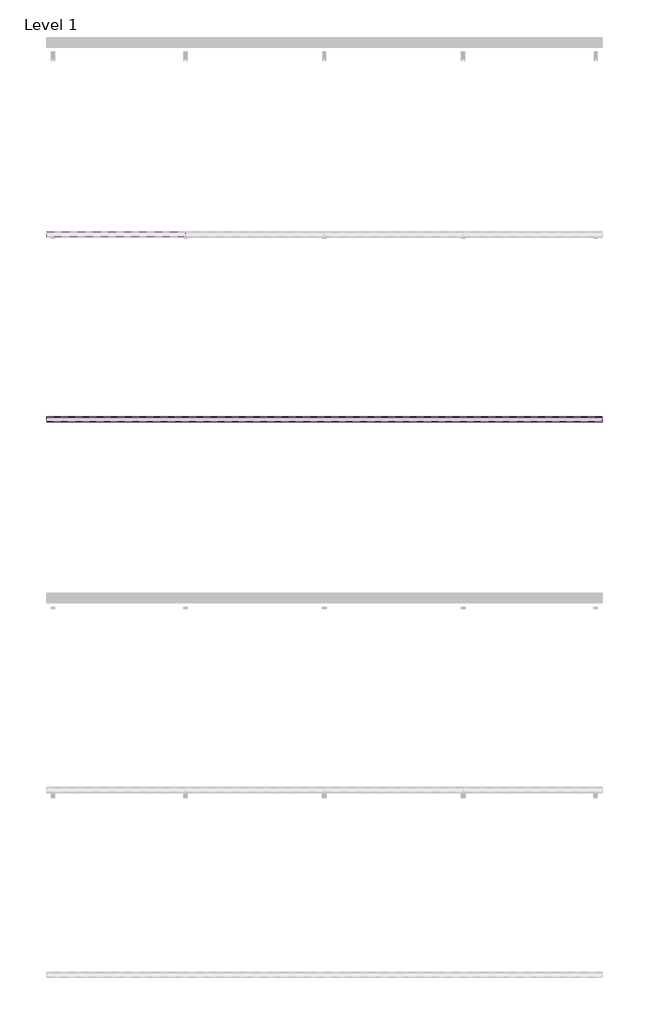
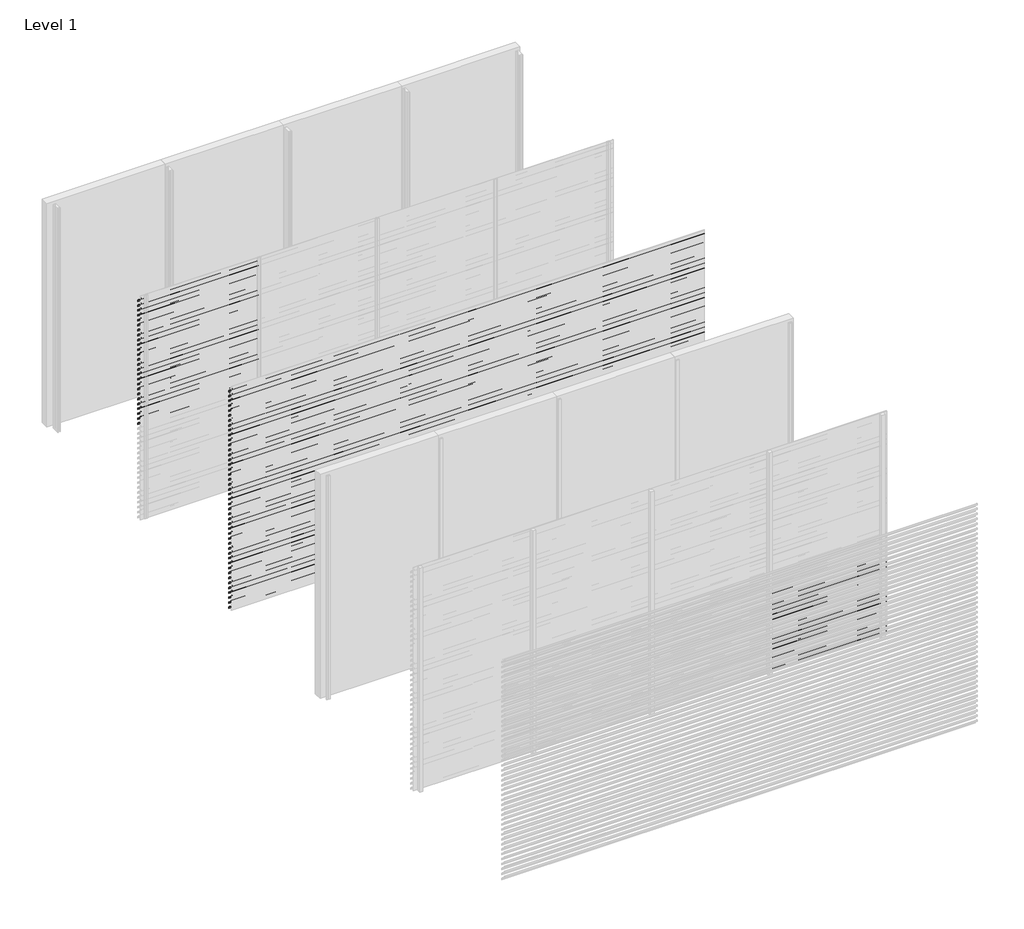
# One storey, part 13 of 25: 87 proxies.
"""IFC4 building model written with IfcOpenShell, lengths in millimetres."""

import ifcopenshell
import ifcopenshell.guid

model = None  # the IFC model being written
_history = None  # IfcOwnerHistory: only IFC2X3 demands one
_inside = {}  # id of a spatial element -> (the spatial element, [elements in it])
_under = {}  # id of a project, library or spatial element -> (it, [spatial elements below it])
_declared = {}  # id of a project -> (the project, [libraries it declares])
_typed = {}  # id of a type object -> (the type object, [elements of that type])
_made_of = {}  # id of a material, layer set ... -> (it, [elements and type objects made of it])


def new_model(schema):
    """Start an empty IFC model of exactly this schema.

    Asked for "IFC4X3", IfcOpenShell would pick the latest addendum, in which some entities
    have other attributes; the version numbers below select the first issue.
    IFC2X3 requires an IfcOwnerHistory on every rooted entity: one is made here for all.
    """
    global model, _history
    if schema == "IFC4X3":
        model = ifcopenshell.file(schema_version=(4, 3, 0, 0))
    else:
        model = ifcopenshell.file(schema=schema)
    _inside.clear()
    _under.clear()
    _declared.clear()
    _typed.clear()
    _made_of.clear()
    _history = None
    if model.schema == "IFC2X3":
        org = make("IfcOrganization", Name="unknown")
        user = make(
            "IfcPersonAndOrganization",
            ThePerson=make("IfcPerson", FamilyName="unknown"),
            TheOrganization=org,
        )
        app = make(
            "IfcApplication",
            ApplicationDeveloper=org,
            Version="unknown",
            ApplicationFullName="unknown",
            ApplicationIdentifier="unknown",
        )
        _history = make(
            "IfcOwnerHistory",
            OwningUser=user,
            OwningApplication=app,
            ChangeAction="ADDED",
            CreationDate=0,
        )
    return model


def make(cls, **values):
    """One entity of the class cls with the attributes given. An attribute that is None is left unset."""
    return model.create_entity(
        cls, **{name: value for name, value in values.items() if value is not None}
    )


def rooted(cls, **values):
    """An entity with a GlobalId (a new one), such as an element, a storey or a relation."""
    return make(cls, GlobalId=ifcopenshell.guid.new(), OwnerHistory=_history, **values)


def si_unit(unit_type, name, prefix=None):
    """IfcSIUnit, for example si_unit("LENGTHUNIT", "METRE", prefix="MILLI")."""
    return make("IfcSIUnit", UnitType=unit_type, Prefix=prefix, Name=name)


def assignment(units):
    """IfcUnitAssignment: the units of a project."""
    return None if units is None else make("IfcUnitAssignment", Units=units)


def point(xyz):
    """IfcCartesianPoint."""
    return None if xyz is None else make("IfcCartesianPoint", Coordinates=xyz)


def direction(xyz):
    """IfcDirection."""
    return None if xyz is None else make("IfcDirection", DirectionRatios=xyz)


def frame(location, z_axis=None, x_axis=None):
    """IfcAxis2Placement3D, a coordinate frame: its origin and axes. An axis left out is left unset."""
    return make(
        "IfcAxis2Placement3D",
        Location=point(location),
        Axis=direction(z_axis),
        RefDirection=direction(x_axis),
    )


def origin():
    """The frame at (0, 0, 0) with its axes left unset."""
    return frame((0.0, 0.0, 0.0))


def place(relative_to, where):
    """IfcLocalPlacement: puts the frame where relative to a parent placement (None: the world)."""
    return make(
        "IfcLocalPlacement", PlacementRelTo=relative_to, RelativePlacement=where
    )


def context(
    kind, dimensions, precision=None, world=None, true_north=None, identifier=None
):
    """IfcGeometricRepresentationContext, for example the 3D "Model" context."""
    return make(
        "IfcGeometricRepresentationContext",
        ContextIdentifier=identifier,
        ContextType=kind,
        CoordinateSpaceDimension=dimensions,
        Precision=precision,
        WorldCoordinateSystem=world,
        TrueNorth=true_north,
    )


def project(units=None, contexts=None):
    """IfcProject with its units and contexts."""
    return rooted(
        "IfcProject",
        Name="project",
        RepresentationContexts=contexts,
        UnitsInContext=assignment(units),
    )


def spatial(cls, under=None, at=None, **own):
    """A site, building, storey or space (cls), placed at a placement, below another one or the project."""
    s = rooted(cls, ObjectPlacement=at, **own)
    if under is not None:
        _under.setdefault(under.id(), (under, []))[1].append(s)
    return s


def polyline(points):
    """IfcPolyline through the points."""
    return make("IfcPolyline", Points=[point(p) for p in points])


def outline(outer, holes=None, kind="AREA"):
    """IfcArbitraryClosedProfileDef: a profile drawn as a closed curve; with holes, ...WithVoids."""
    if holes is None:
        return make("IfcArbitraryClosedProfileDef", ProfileType=kind, OuterCurve=outer)
    return make(
        "IfcArbitraryProfileDefWithVoids",
        ProfileType=kind,
        OuterCurve=outer,
        InnerCurves=holes,
    )


def extrude(swept, where, along, depth):
    """IfcExtrudedAreaSolid: the profile swept, set in the frame where, extruded along a direction by depth."""
    return make(
        "IfcExtrudedAreaSolid",
        SweptArea=swept,
        Position=where,
        ExtrudedDirection=direction(along),
        Depth=depth,
    )


def shape(context_of_items, identifier, shape_type, items):
    """IfcShapeRepresentation: the items that make up one representation, for example the "Body"."""
    return make(
        "IfcShapeRepresentation",
        ContextOfItems=context_of_items,
        RepresentationIdentifier=identifier,
        RepresentationType=shape_type,
        Items=items,
    )


def made_of(thing, what):
    """Note that an element or type object is made of a material, layer set ...; save() writes the relation."""
    if what is not None:
        _made_of.setdefault(what.id(), (what, []))[1].append(thing)
    return thing


def element(
    cls,
    number,
    at=None,
    inside=None,
    cuts=None,
    type_object=None,
    material=None,
    context=None,
    identifier="Body",
    shape_type=None,
    held_by="IfcProductDefinitionShape",
    body=None,
    shapes=None,
    **own,
):
    """One element of the class cls, such as IfcWall. Its Tag is "e" and its number.

    at: its placement. inside: the storey or other place that contains it. cuts: it is an
    opening in that element (IfcRelVoidsElement). A single representation is given by context,
    identifier, shape_type and body (its items); several are given by shapes. held_by: the class
    of the entity that holds the representations. save() writes the other relations.
    """
    e = rooted(cls, Tag="e%d" % number, ObjectPlacement=at, **own)
    if body is not None:
        shapes = [shape(context, identifier, shape_type, body)]
    if shapes is not None:
        e.Representation = make(held_by, Representations=shapes)
    if inside is not None:
        _inside.setdefault(inside.id(), (inside, []))[1].append(e)
    if cuts is not None:
        rooted(
            "IfcRelVoidsElement", RelatingBuildingElement=cuts, RelatedOpeningElement=e
        )
    if type_object is not None:
        _typed.setdefault(type_object.id(), (type_object, []))[1].append(e)
    return made_of(e, material)


def aggregate(whole, parts):
    """IfcRelAggregates: a whole, such as a stair, and the parts it consists of."""
    return rooted("IfcRelAggregates", RelatingObject=whole, RelatedObjects=parts)


def save(model, path):
    """Write the relations noted so far, then the file.

    IfcRelAggregates (storeys below a building ...), IfcRelContainedInSpatialStructure (elements
    in a storey), IfcRelDefinesByType, IfcRelAssociatesMaterial and IfcRelDeclares: one each for
    every whole, place, type object, material and project.
    """
    for whole, parts in _under.values():
        aggregate(whole, parts)
    for where, things in _inside.values():
        rooted(
            "IfcRelContainedInSpatialStructure",
            RelatedElements=things,
            RelatingStructure=where,
        )
    for kind, things in _typed.values():
        rooted("IfcRelDefinesByType", RelatedObjects=things, RelatingType=kind)
    for what, things in _made_of.values():
        rooted("IfcRelAssociatesMaterial", RelatedObjects=things, RelatingMaterial=what)
    for by, libraries in _declared.values():
        rooted("IfcRelDeclares", RelatingContext=by, RelatedDefinitions=libraries)
    model.write(path)


model = new_model("IFC4")

# Units and contexts
model_context = context("Model", 3, world=origin())
ifc_project = project(units=[si_unit("LENGTHUNIT", "METRE", prefix="MILLI")], contexts=[model_context])

# Site, building, storey
site = spatial("IfcSite", under=ifc_project)
building = spatial("IfcBuilding", under=site)
storey = spatial("IfcBuildingStorey", under=building, Name="Level 1", Elevation=0.0)

# Proxies
placement = place(None, origin())
element("IfcBuildingElementProxy", 1, Name="Wall Sweeps", at=placement, inside=storey, context=model_context, shape_type="SweptSolid", body=[
    extrude(outline(polyline([(-23943.0, 2913.5), (-23943.0, 2893.5), (-23944.25, 2894.2216933), (-23944.25, 2912.7872415), (-23998.0, 2950.3158044), (-23998.0, 2970.0), (-23996.75, 2970.0), (-23996.75, 2951.0285629), (-23943.0, 2913.5)])), frame((0.0, 0.0, 0.0), z_axis=(1.0, 0.0, 0.0), x_axis=(0.0, 1.0, 0.0)), (0.0, 0.0, 1.0), 1500.0),
])
element("IfcBuildingElementProxy", 2, Name="Wall Sweeps", at=placement, inside=storey, context=model_context, shape_type="SweptSolid", body=[
    extrude(outline(polyline([(-23943.0, 2847.5), (-23943.0, 2827.5), (-23944.25, 2828.2216933), (-23944.25, 2846.7872415), (-23998.0, 2884.3158044), (-23998.0, 2904.0), (-23996.75, 2904.0), (-23996.75, 2885.0285629), (-23943.0, 2847.5)])), frame((0.0, 0.0, 0.0), z_axis=(1.0, 0.0, 0.0), x_axis=(0.0, 1.0, 0.0)), (0.0, 0.0, 1.0), 1500.0),
])
element("IfcBuildingElementProxy", 3, Name="Wall Sweeps", at=placement, inside=storey, context=model_context, shape_type="SweptSolid", body=[
    extrude(outline(polyline([(-23943.0, 2781.5), (-23943.0, 2761.5), (-23944.25, 2762.2216933), (-23944.25, 2780.7872415), (-23998.0, 2818.3158044), (-23998.0, 2838.0), (-23996.75, 2838.0), (-23996.75, 2819.0285629), (-23943.0, 2781.5)])), frame((0.0, 0.0, 0.0), z_axis=(1.0, 0.0, 0.0), x_axis=(0.0, 1.0, 0.0)), (0.0, 0.0, 1.0), 1500.0),
])
element("IfcBuildingElementProxy", 4, Name="Wall Sweeps", at=placement, inside=storey, context=model_context, shape_type="SweptSolid", body=[
    extrude(outline(polyline([(-23943.0, 2715.5), (-23943.0, 2695.5), (-23944.25, 2696.2216933), (-23944.25, 2714.7872415), (-23998.0, 2752.3158044), (-23998.0, 2772.0), (-23996.75, 2772.0), (-23996.75, 2753.0285629), (-23943.0, 2715.5)])), frame((0.0, 0.0, 0.0), z_axis=(1.0, 0.0, 0.0), x_axis=(0.0, 1.0, 0.0)), (0.0, 0.0, 1.0), 1500.0),
])
element("IfcBuildingElementProxy", 5, Name="Wall Sweeps", at=placement, inside=storey, context=model_context, shape_type="SweptSolid", body=[
    extrude(outline(polyline([(-23943.0, 2649.5), (-23943.0, 2629.5), (-23944.25, 2630.2216933), (-23944.25, 2648.7872415), (-23998.0, 2686.3158044), (-23998.0, 2706.0), (-23996.75, 2706.0), (-23996.75, 2687.0285629), (-23943.0, 2649.5)])), frame((0.0, 0.0, 0.0), z_axis=(1.0, 0.0, 0.0), x_axis=(0.0, 1.0, 0.0)), (0.0, 0.0, 1.0), 1500.0),
])
element("IfcBuildingElementProxy", 6, Name="Wall Sweeps", at=placement, inside=storey, context=model_context, shape_type="SweptSolid", body=[
    extrude(outline(polyline([(-23943.0, 2583.5), (-23943.0, 2563.5), (-23944.25, 2564.2216933), (-23944.25, 2582.7872415), (-23998.0, 2620.3158044), (-23998.0, 2640.0), (-23996.75, 2640.0), (-23996.75, 2621.0285629), (-23943.0, 2583.5)])), frame((0.0, 0.0, 0.0), z_axis=(1.0, 0.0, 0.0), x_axis=(0.0, 1.0, 0.0)), (0.0, 0.0, 1.0), 1500.0),
])
element("IfcBuildingElementProxy", 7, Name="Wall Sweeps", at=placement, inside=storey, context=model_context, shape_type="SweptSolid", body=[
    extrude(outline(polyline([(-23943.0, 2517.5), (-23943.0, 2497.5), (-23944.25, 2498.2216933), (-23944.25, 2516.7872415), (-23998.0, 2554.3158044), (-23998.0, 2574.0), (-23996.75, 2574.0), (-23996.75, 2555.0285629), (-23943.0, 2517.5)])), frame((0.0, 0.0, 0.0), z_axis=(1.0, 0.0, 0.0), x_axis=(0.0, 1.0, 0.0)), (0.0, 0.0, 1.0), 1500.0),
])
element("IfcBuildingElementProxy", 8, Name="Wall Sweeps", at=placement, inside=storey, context=model_context, shape_type="SweptSolid", body=[
    extrude(outline(polyline([(-23943.0, 2451.5), (-23943.0, 2431.5), (-23944.25, 2432.2216933), (-23944.25, 2450.7872415), (-23998.0, 2488.3158044), (-23998.0, 2508.0), (-23996.75, 2508.0), (-23996.75, 2489.0285629), (-23943.0, 2451.5)])), frame((0.0, 0.0, 0.0), z_axis=(1.0, 0.0, 0.0), x_axis=(0.0, 1.0, 0.0)), (0.0, 0.0, 1.0), 1500.0),
])
element("IfcBuildingElementProxy", 9, Name="Wall Sweeps", at=placement, inside=storey, context=model_context, shape_type="SweptSolid", body=[
    extrude(outline(polyline([(-23943.0, 2385.5), (-23943.0, 2365.5), (-23944.25, 2366.2216933), (-23944.25, 2384.7872415), (-23998.0, 2422.3158044), (-23998.0, 2442.0), (-23996.75, 2442.0), (-23996.75, 2423.0285629), (-23943.0, 2385.5)])), frame((0.0, 0.0, 0.0), z_axis=(1.0, 0.0, 0.0), x_axis=(0.0, 1.0, 0.0)), (0.0, 0.0, 1.0), 1500.0),
])
element("IfcBuildingElementProxy", 10, Name="Wall Sweeps", at=placement, inside=storey, context=model_context, shape_type="SweptSolid", body=[
    extrude(outline(polyline([(-23943.0, 2319.5), (-23943.0, 2299.5), (-23944.25, 2300.2216933), (-23944.25, 2318.7872415), (-23998.0, 2356.3158044), (-23998.0, 2376.0), (-23996.75, 2376.0), (-23996.75, 2357.0285629), (-23943.0, 2319.5)])), frame((0.0, 0.0, 0.0), z_axis=(1.0, 0.0, 0.0), x_axis=(0.0, 1.0, 0.0)), (0.0, 0.0, 1.0), 1500.0),
])
element("IfcBuildingElementProxy", 11, Name="Wall Sweeps", at=placement, inside=storey, context=model_context, shape_type="SweptSolid", body=[
    extrude(outline(polyline([(-23943.0, 2253.5), (-23943.0, 2233.5), (-23944.25, 2234.2216933), (-23944.25, 2252.7872415), (-23998.0, 2290.3158044), (-23998.0, 2310.0), (-23996.75, 2310.0), (-23996.75, 2291.0285629), (-23943.0, 2253.5)])), frame((0.0, 0.0, 0.0), z_axis=(1.0, 0.0, 0.0), x_axis=(0.0, 1.0, 0.0)), (0.0, 0.0, 1.0), 1500.0),
])
element("IfcBuildingElementProxy", 12, Name="Wall Sweeps", at=placement, inside=storey, context=model_context, shape_type="SweptSolid", body=[
    extrude(outline(polyline([(-23943.0, 2187.5), (-23943.0, 2167.5), (-23944.25, 2168.2216933), (-23944.25, 2186.7872415), (-23998.0, 2224.3158044), (-23998.0, 2244.0), (-23996.75, 2244.0), (-23996.75, 2225.0285629), (-23943.0, 2187.5)])), frame((0.0, 0.0, 0.0), z_axis=(1.0, 0.0, 0.0), x_axis=(0.0, 1.0, 0.0)), (0.0, 0.0, 1.0), 1500.0),
])
element("IfcBuildingElementProxy", 13, Name="Wall Sweeps", at=placement, inside=storey, context=model_context, shape_type="SweptSolid", body=[
    extrude(outline(polyline([(-23943.0, 2121.5), (-23943.0, 2101.5), (-23944.25, 2102.2216933), (-23944.25, 2120.7872415), (-23998.0, 2158.3158044), (-23998.0, 2178.0), (-23996.75, 2178.0), (-23996.75, 2159.0285629), (-23943.0, 2121.5)])), frame((0.0, 0.0, 0.0), z_axis=(1.0, 0.0, 0.0), x_axis=(0.0, 1.0, 0.0)), (0.0, 0.0, 1.0), 1500.0),
])
element("IfcBuildingElementProxy", 14, Name="Wall Sweeps", at=placement, inside=storey, context=model_context, shape_type="SweptSolid", body=[
    extrude(outline(polyline([(-23943.0, 2055.5), (-23943.0, 2035.5), (-23944.25, 2036.2216933), (-23944.25, 2054.7872415), (-23998.0, 2092.3158044), (-23998.0, 2112.0), (-23996.75, 2112.0), (-23996.75, 2093.0285629), (-23943.0, 2055.5)])), frame((0.0, 0.0, 0.0), z_axis=(1.0, 0.0, 0.0), x_axis=(0.0, 1.0, 0.0)), (0.0, 0.0, 1.0), 1500.0),
])
element("IfcBuildingElementProxy", 15, Name="Wall Sweeps", at=placement, inside=storey, context=model_context, shape_type="SweptSolid", body=[
    extrude(outline(polyline([(-23943.0, 1989.5), (-23943.0, 1969.5), (-23944.25, 1970.2216933), (-23944.25, 1988.7872415), (-23998.0, 2026.3158044), (-23998.0, 2046.0), (-23996.75, 2046.0), (-23996.75, 2027.0285629), (-23943.0, 1989.5)])), frame((0.0, 0.0, 0.0), z_axis=(1.0, 0.0, 0.0), x_axis=(0.0, 1.0, 0.0)), (0.0, 0.0, 1.0), 1500.0),
])
element("IfcBuildingElementProxy", 16, Name="Wall Sweeps", at=placement, inside=storey, context=model_context, shape_type="SweptSolid", body=[
    extrude(outline(polyline([(-23943.0, 1923.5), (-23943.0, 1903.5), (-23944.25, 1904.2216933), (-23944.25, 1922.7872415), (-23998.0, 1960.3158044), (-23998.0, 1980.0), (-23996.75, 1980.0), (-23996.75, 1961.0285629), (-23943.0, 1923.5)])), frame((0.0, 0.0, 0.0), z_axis=(1.0, 0.0, 0.0), x_axis=(0.0, 1.0, 0.0)), (0.0, 0.0, 1.0), 1500.0),
])
element("IfcBuildingElementProxy", 17, Name="Wall Sweeps", at=placement, inside=storey, context=model_context, shape_type="SweptSolid", body=[
    extrude(outline(polyline([(-23943.0, 1857.5), (-23943.0, 1837.5), (-23944.25, 1838.2216933), (-23944.25, 1856.7872415), (-23998.0, 1894.3158044), (-23998.0, 1914.0), (-23996.75, 1914.0), (-23996.75, 1895.0285629), (-23943.0, 1857.5)])), frame((0.0, 0.0, 0.0), z_axis=(1.0, 0.0, 0.0), x_axis=(0.0, 1.0, 0.0)), (0.0, 0.0, 1.0), 1500.0),
])
element("IfcBuildingElementProxy", 18, Name="Wall Sweeps", at=placement, inside=storey, context=model_context, shape_type="SweptSolid", body=[
    extrude(outline(polyline([(-23943.0, 1791.5), (-23943.0, 1771.5), (-23944.25, 1772.2216933), (-23944.25, 1790.7872415), (-23998.0, 1828.3158044), (-23998.0, 1848.0), (-23996.75, 1848.0), (-23996.75, 1829.0285629), (-23943.0, 1791.5)])), frame((0.0, 0.0, 0.0), z_axis=(1.0, 0.0, 0.0), x_axis=(0.0, 1.0, 0.0)), (0.0, 0.0, 1.0), 1500.0),
])
element("IfcBuildingElementProxy", 19, Name="Wall Sweeps", at=placement, inside=storey, context=model_context, shape_type="SweptSolid", body=[
    extrude(outline(polyline([(-23943.0, 1725.5), (-23943.0, 1705.5), (-23944.25, 1706.2216933), (-23944.25, 1724.7872415), (-23998.0, 1762.3158044), (-23998.0, 1782.0), (-23996.75, 1782.0), (-23996.75, 1763.0285629), (-23943.0, 1725.5)])), frame((0.0, 0.0, 0.0), z_axis=(1.0, 0.0, 0.0), x_axis=(0.0, 1.0, 0.0)), (0.0, 0.0, 1.0), 1500.0),
])
element("IfcBuildingElementProxy", 20, Name="Wall Sweeps", at=placement, inside=storey, context=model_context, shape_type="SweptSolid", body=[
    extrude(outline(polyline([(-23943.0, 1659.5), (-23943.0, 1639.5), (-23944.25, 1640.2216933), (-23944.25, 1658.7872415), (-23998.0, 1696.3158044), (-23998.0, 1716.0), (-23996.75, 1716.0), (-23996.75, 1697.0285629), (-23943.0, 1659.5)])), frame((0.0, 0.0, 0.0), z_axis=(1.0, 0.0, 0.0), x_axis=(0.0, 1.0, 0.0)), (0.0, 0.0, 1.0), 1500.0),
])
element("IfcBuildingElementProxy", 21, Name="Wall Sweeps", at=placement, inside=storey, context=model_context, shape_type="SweptSolid", body=[
    extrude(outline(polyline([(-23943.0, 1593.5), (-23943.0, 1573.5), (-23944.25, 1574.2216933), (-23944.25, 1592.7872415), (-23998.0, 1630.3158044), (-23998.0, 1650.0), (-23996.75, 1650.0), (-23996.75, 1631.0285629), (-23943.0, 1593.5)])), frame((0.0, 0.0, 0.0), z_axis=(1.0, 0.0, 0.0), x_axis=(0.0, 1.0, 0.0)), (0.0, 0.0, 1.0), 1500.0),
])
element("IfcBuildingElementProxy", 22, Name="Wall Sweeps", at=placement, inside=storey, context=model_context, shape_type="SweptSolid", body=[
    extrude(outline(polyline([(-23943.0, 1527.5), (-23943.0, 1507.5), (-23944.25, 1508.2216933), (-23944.25, 1526.7872415), (-23998.0, 1564.3158044), (-23998.0, 1584.0), (-23996.75, 1584.0), (-23996.75, 1565.0285629), (-23943.0, 1527.5)])), frame((0.0, 0.0, 0.0), z_axis=(1.0, 0.0, 0.0), x_axis=(0.0, 1.0, 0.0)), (0.0, 0.0, 1.0), 1500.0),
])
element("IfcBuildingElementProxy", 23, Name="Wall Sweeps", at=placement, inside=storey, context=model_context, shape_type="SweptSolid", body=[
    extrude(outline(polyline([(-23943.0, 1461.5), (-23943.0, 1441.5), (-23944.25, 1442.2216933), (-23944.25, 1460.7872415), (-23998.0, 1498.3158044), (-23998.0, 1518.0), (-23996.75, 1518.0), (-23996.75, 1499.0285629), (-23943.0, 1461.5)])), frame((0.0, 0.0, 0.0), z_axis=(1.0, 0.0, 0.0), x_axis=(0.0, 1.0, 0.0)), (0.0, 0.0, 1.0), 1500.0),
])
element("IfcBuildingElementProxy", 24, Name="Wall Sweeps", at=placement, inside=storey, context=model_context, shape_type="SweptSolid", body=[
    extrude(outline(polyline([(-23943.0, 1395.5), (-23943.0, 1375.5), (-23944.25, 1376.2216933), (-23944.25, 1394.7872415), (-23998.0, 1432.3158044), (-23998.0, 1452.0), (-23996.75, 1452.0), (-23996.75, 1433.0285629), (-23943.0, 1395.5)])), frame((0.0, 0.0, 0.0), z_axis=(1.0, 0.0, 0.0), x_axis=(0.0, 1.0, 0.0)), (0.0, 0.0, 1.0), 1500.0),
])
element("IfcBuildingElementProxy", 25, Name="Wall Sweeps", at=placement, inside=storey, context=model_context, shape_type="SweptSolid", body=[
    extrude(outline(polyline([(-23943.0, 1329.5), (-23943.0, 1309.5), (-23944.25, 1310.2216933), (-23944.25, 1328.7872415), (-23998.0, 1366.3158044), (-23998.0, 1386.0), (-23996.75, 1386.0), (-23996.75, 1367.0285629), (-23943.0, 1329.5)])), frame((0.0, 0.0, 0.0), z_axis=(1.0, 0.0, 0.0), x_axis=(0.0, 1.0, 0.0)), (0.0, 0.0, 1.0), 1500.0),
])
element("IfcBuildingElementProxy", 26, Name="Wall Sweeps", at=placement, inside=storey, context=model_context, shape_type="SweptSolid", body=[
    extrude(outline(polyline([(-23943.0, 1263.5), (-23943.0, 1243.5), (-23944.25, 1244.2216933), (-23944.25, 1262.7872415), (-23998.0, 1300.3158044), (-23998.0, 1320.0), (-23996.75, 1320.0), (-23996.75, 1301.0285629), (-23943.0, 1263.5)])), frame((0.0, 0.0, 0.0), z_axis=(1.0, 0.0, 0.0), x_axis=(0.0, 1.0, 0.0)), (0.0, 0.0, 1.0), 1500.0),
])
element("IfcBuildingElementProxy", 27, Name="Wall Sweeps", at=placement, inside=storey, context=model_context, shape_type="SweptSolid", body=[
    extrude(outline(polyline([(-25943.0, 2913.5), (-25943.0, 2893.5), (-25944.25, 2894.2216933), (-25944.25, 2912.7872415), (-25998.0, 2950.3158044), (-25998.0, 2970.0), (-25996.75, 2970.0), (-25996.75, 2951.0285629), (-25943.0, 2913.5)])), frame((0.0, 0.0, 0.0), z_axis=(1.0, 0.0, 0.0), x_axis=(0.0, 1.0, 0.0)), (0.0, 0.0, 1.0), 6000.0),
])
element("IfcBuildingElementProxy", 28, Name="Wall Sweeps", at=placement, inside=storey, context=model_context, shape_type="SweptSolid", body=[
    extrude(outline(polyline([(-25943.0, 2847.5), (-25943.0, 2827.5), (-25944.25, 2828.2216933), (-25944.25, 2846.7872415), (-25998.0, 2884.3158044), (-25998.0, 2904.0), (-25996.75, 2904.0), (-25996.75, 2885.0285629), (-25943.0, 2847.5)])), frame((0.0, 0.0, 0.0), z_axis=(1.0, 0.0, 0.0), x_axis=(0.0, 1.0, 0.0)), (0.0, 0.0, 1.0), 6000.0),
])
element("IfcBuildingElementProxy", 29, Name="Wall Sweeps", at=placement, inside=storey, context=model_context, shape_type="SweptSolid", body=[
    extrude(outline(polyline([(-25943.0, 2781.5), (-25943.0, 2761.5), (-25944.25, 2762.2216933), (-25944.25, 2780.7872415), (-25998.0, 2818.3158044), (-25998.0, 2838.0), (-25996.75, 2838.0), (-25996.75, 2819.0285629), (-25943.0, 2781.5)])), frame((0.0, 0.0, 0.0), z_axis=(1.0, 0.0, 0.0), x_axis=(0.0, 1.0, 0.0)), (0.0, 0.0, 1.0), 6000.0),
])
element("IfcBuildingElementProxy", 30, Name="Wall Sweeps", at=placement, inside=storey, context=model_context, shape_type="SweptSolid", body=[
    extrude(outline(polyline([(-25943.0, 2715.5), (-25943.0, 2695.5), (-25944.25, 2696.2216933), (-25944.25, 2714.7872415), (-25998.0, 2752.3158044), (-25998.0, 2772.0), (-25996.75, 2772.0), (-25996.75, 2753.0285629), (-25943.0, 2715.5)])), frame((0.0, 0.0, 0.0), z_axis=(1.0, 0.0, 0.0), x_axis=(0.0, 1.0, 0.0)), (0.0, 0.0, 1.0), 6000.0),
])
element("IfcBuildingElementProxy", 31, Name="Wall Sweeps", at=placement, inside=storey, context=model_context, shape_type="SweptSolid", body=[
    extrude(outline(polyline([(-25943.0, 2649.5), (-25943.0, 2629.5), (-25944.25, 2630.2216933), (-25944.25, 2648.7872415), (-25998.0, 2686.3158044), (-25998.0, 2706.0), (-25996.75, 2706.0), (-25996.75, 2687.0285629), (-25943.0, 2649.5)])), frame((0.0, 0.0, 0.0), z_axis=(1.0, 0.0, 0.0), x_axis=(0.0, 1.0, 0.0)), (0.0, 0.0, 1.0), 6000.0),
])
element("IfcBuildingElementProxy", 32, Name="Wall Sweeps", at=placement, inside=storey, context=model_context, shape_type="SweptSolid", body=[
    extrude(outline(polyline([(-25943.0, 2583.5), (-25943.0, 2563.5), (-25944.25, 2564.2216933), (-25944.25, 2582.7872415), (-25998.0, 2620.3158044), (-25998.0, 2640.0), (-25996.75, 2640.0), (-25996.75, 2621.0285629), (-25943.0, 2583.5)])), frame((0.0, 0.0, 0.0), z_axis=(1.0, 0.0, 0.0), x_axis=(0.0, 1.0, 0.0)), (0.0, 0.0, 1.0), 6000.0),
])
element("IfcBuildingElementProxy", 33, Name="Wall Sweeps", at=placement, inside=storey, context=model_context, shape_type="SweptSolid", body=[
    extrude(outline(polyline([(-25943.0, 2517.5), (-25943.0, 2497.5), (-25944.25, 2498.2216933), (-25944.25, 2516.7872415), (-25998.0, 2554.3158044), (-25998.0, 2574.0), (-25996.75, 2574.0), (-25996.75, 2555.0285629), (-25943.0, 2517.5)])), frame((0.0, 0.0, 0.0), z_axis=(1.0, 0.0, 0.0), x_axis=(0.0, 1.0, 0.0)), (0.0, 0.0, 1.0), 6000.0),
])
element("IfcBuildingElementProxy", 34, Name="Wall Sweeps", at=placement, inside=storey, context=model_context, shape_type="SweptSolid", body=[
    extrude(outline(polyline([(-25943.0, 2451.5), (-25943.0, 2431.5), (-25944.25, 2432.2216933), (-25944.25, 2450.7872415), (-25998.0, 2488.3158044), (-25998.0, 2508.0), (-25996.75, 2508.0), (-25996.75, 2489.0285629), (-25943.0, 2451.5)])), frame((0.0, 0.0, 0.0), z_axis=(1.0, 0.0, 0.0), x_axis=(0.0, 1.0, 0.0)), (0.0, 0.0, 1.0), 6000.0),
])
element("IfcBuildingElementProxy", 35, Name="Wall Sweeps", at=placement, inside=storey, context=model_context, shape_type="SweptSolid", body=[
    extrude(outline(polyline([(-25943.0, 2385.5), (-25943.0, 2365.5), (-25944.25, 2366.2216933), (-25944.25, 2384.7872415), (-25998.0, 2422.3158044), (-25998.0, 2442.0), (-25996.75, 2442.0), (-25996.75, 2423.0285629), (-25943.0, 2385.5)])), frame((0.0, 0.0, 0.0), z_axis=(1.0, 0.0, 0.0), x_axis=(0.0, 1.0, 0.0)), (0.0, 0.0, 1.0), 6000.0),
])
element("IfcBuildingElementProxy", 36, Name="Wall Sweeps", at=placement, inside=storey, context=model_context, shape_type="SweptSolid", body=[
    extrude(outline(polyline([(-25943.0, 2319.5), (-25943.0, 2299.5), (-25944.25, 2300.2216933), (-25944.25, 2318.7872415), (-25998.0, 2356.3158044), (-25998.0, 2376.0), (-25996.75, 2376.0), (-25996.75, 2357.0285629), (-25943.0, 2319.5)])), frame((0.0, 0.0, 0.0), z_axis=(1.0, 0.0, 0.0), x_axis=(0.0, 1.0, 0.0)), (0.0, 0.0, 1.0), 6000.0),
])
element("IfcBuildingElementProxy", 37, Name="Wall Sweeps", at=placement, inside=storey, context=model_context, shape_type="SweptSolid", body=[
    extrude(outline(polyline([(-25943.0, 2253.5), (-25943.0, 2233.5), (-25944.25, 2234.2216933), (-25944.25, 2252.7872415), (-25998.0, 2290.3158044), (-25998.0, 2310.0), (-25996.75, 2310.0), (-25996.75, 2291.0285629), (-25943.0, 2253.5)])), frame((0.0, 0.0, 0.0), z_axis=(1.0, 0.0, 0.0), x_axis=(0.0, 1.0, 0.0)), (0.0, 0.0, 1.0), 6000.0),
])
element("IfcBuildingElementProxy", 38, Name="Wall Sweeps", at=placement, inside=storey, context=model_context, shape_type="SweptSolid", body=[
    extrude(outline(polyline([(-25943.0, 2187.5), (-25943.0, 2167.5), (-25944.25, 2168.2216933), (-25944.25, 2186.7872415), (-25998.0, 2224.3158044), (-25998.0, 2244.0), (-25996.75, 2244.0), (-25996.75, 2225.0285629), (-25943.0, 2187.5)])), frame((0.0, 0.0, 0.0), z_axis=(1.0, 0.0, 0.0), x_axis=(0.0, 1.0, 0.0)), (0.0, 0.0, 1.0), 6000.0),
])
element("IfcBuildingElementProxy", 39, Name="Wall Sweeps", at=placement, inside=storey, context=model_context, shape_type="SweptSolid", body=[
    extrude(outline(polyline([(-25943.0, 2121.5), (-25943.0, 2101.5), (-25944.25, 2102.2216933), (-25944.25, 2120.7872415), (-25998.0, 2158.3158044), (-25998.0, 2178.0), (-25996.75, 2178.0), (-25996.75, 2159.0285629), (-25943.0, 2121.5)])), frame((0.0, 0.0, 0.0), z_axis=(1.0, 0.0, 0.0), x_axis=(0.0, 1.0, 0.0)), (0.0, 0.0, 1.0), 6000.0),
])
element("IfcBuildingElementProxy", 40, Name="Wall Sweeps", at=placement, inside=storey, context=model_context, shape_type="SweptSolid", body=[
    extrude(outline(polyline([(-25943.0, 2055.5), (-25943.0, 2035.5), (-25944.25, 2036.2216933), (-25944.25, 2054.7872415), (-25998.0, 2092.3158044), (-25998.0, 2112.0), (-25996.75, 2112.0), (-25996.75, 2093.0285629), (-25943.0, 2055.5)])), frame((0.0, 0.0, 0.0), z_axis=(1.0, 0.0, 0.0), x_axis=(0.0, 1.0, 0.0)), (0.0, 0.0, 1.0), 6000.0),
])
element("IfcBuildingElementProxy", 41, Name="Wall Sweeps", at=placement, inside=storey, context=model_context, shape_type="SweptSolid", body=[
    extrude(outline(polyline([(-25943.0, 1989.5), (-25943.0, 1969.5), (-25944.25, 1970.2216933), (-25944.25, 1988.7872415), (-25998.0, 2026.3158044), (-25998.0, 2046.0), (-25996.75, 2046.0), (-25996.75, 2027.0285629), (-25943.0, 1989.5)])), frame((0.0, 0.0, 0.0), z_axis=(1.0, 0.0, 0.0), x_axis=(0.0, 1.0, 0.0)), (0.0, 0.0, 1.0), 6000.0),
])
element("IfcBuildingElementProxy", 42, Name="Wall Sweeps", at=placement, inside=storey, context=model_context, shape_type="SweptSolid", body=[
    extrude(outline(polyline([(-25943.0, 1923.5), (-25943.0, 1903.5), (-25944.25, 1904.2216933), (-25944.25, 1922.7872415), (-25998.0, 1960.3158044), (-25998.0, 1980.0), (-25996.75, 1980.0), (-25996.75, 1961.0285629), (-25943.0, 1923.5)])), frame((0.0, 0.0, 0.0), z_axis=(1.0, 0.0, 0.0), x_axis=(0.0, 1.0, 0.0)), (0.0, 0.0, 1.0), 6000.0),
])
element("IfcBuildingElementProxy", 43, Name="Wall Sweeps", at=placement, inside=storey, context=model_context, shape_type="SweptSolid", body=[
    extrude(outline(polyline([(-25943.0, 1857.5), (-25943.0, 1837.5), (-25944.25, 1838.2216933), (-25944.25, 1856.7872415), (-25998.0, 1894.3158044), (-25998.0, 1914.0), (-25996.75, 1914.0), (-25996.75, 1895.0285629), (-25943.0, 1857.5)])), frame((0.0, 0.0, 0.0), z_axis=(1.0, 0.0, 0.0), x_axis=(0.0, 1.0, 0.0)), (0.0, 0.0, 1.0), 6000.0),
])
element("IfcBuildingElementProxy", 44, Name="Wall Sweeps", at=placement, inside=storey, context=model_context, shape_type="SweptSolid", body=[
    extrude(outline(polyline([(-25943.0, 1791.5), (-25943.0, 1771.5), (-25944.25, 1772.2216933), (-25944.25, 1790.7872415), (-25998.0, 1828.3158044), (-25998.0, 1848.0), (-25996.75, 1848.0), (-25996.75, 1829.0285629), (-25943.0, 1791.5)])), frame((0.0, 0.0, 0.0), z_axis=(1.0, 0.0, 0.0), x_axis=(0.0, 1.0, 0.0)), (0.0, 0.0, 1.0), 6000.0),
])
element("IfcBuildingElementProxy", 45, Name="Wall Sweeps", at=placement, inside=storey, context=model_context, shape_type="SweptSolid", body=[
    extrude(outline(polyline([(-25943.0, 1725.5), (-25943.0, 1705.5), (-25944.25, 1706.2216933), (-25944.25, 1724.7872415), (-25998.0, 1762.3158044), (-25998.0, 1782.0), (-25996.75, 1782.0), (-25996.75, 1763.0285629), (-25943.0, 1725.5)])), frame((0.0, 0.0, 0.0), z_axis=(1.0, 0.0, 0.0), x_axis=(0.0, 1.0, 0.0)), (0.0, 0.0, 1.0), 6000.0),
])
element("IfcBuildingElementProxy", 46, Name="Wall Sweeps", at=placement, inside=storey, context=model_context, shape_type="SweptSolid", body=[
    extrude(outline(polyline([(-25943.0, 1659.5), (-25943.0, 1639.5), (-25944.25, 1640.2216933), (-25944.25, 1658.7872415), (-25998.0, 1696.3158044), (-25998.0, 1716.0), (-25996.75, 1716.0), (-25996.75, 1697.0285629), (-25943.0, 1659.5)])), frame((0.0, 0.0, 0.0), z_axis=(1.0, 0.0, 0.0), x_axis=(0.0, 1.0, 0.0)), (0.0, 0.0, 1.0), 6000.0),
])
element("IfcBuildingElementProxy", 47, Name="Wall Sweeps", at=placement, inside=storey, context=model_context, shape_type="SweptSolid", body=[
    extrude(outline(polyline([(-25943.0, 1593.5), (-25943.0, 1573.5), (-25944.25, 1574.2216933), (-25944.25, 1592.7872415), (-25998.0, 1630.3158044), (-25998.0, 1650.0), (-25996.75, 1650.0), (-25996.75, 1631.0285629), (-25943.0, 1593.5)])), frame((0.0, 0.0, 0.0), z_axis=(1.0, 0.0, 0.0), x_axis=(0.0, 1.0, 0.0)), (0.0, 0.0, 1.0), 6000.0),
])
element("IfcBuildingElementProxy", 48, Name="Wall Sweeps", at=placement, inside=storey, context=model_context, shape_type="SweptSolid", body=[
    extrude(outline(polyline([(-25943.0, 1527.5), (-25943.0, 1507.5), (-25944.25, 1508.2216933), (-25944.25, 1526.7872415), (-25998.0, 1564.3158044), (-25998.0, 1584.0), (-25996.75, 1584.0), (-25996.75, 1565.0285629), (-25943.0, 1527.5)])), frame((0.0, 0.0, 0.0), z_axis=(1.0, 0.0, 0.0), x_axis=(0.0, 1.0, 0.0)), (0.0, 0.0, 1.0), 6000.0),
])
element("IfcBuildingElementProxy", 49, Name="Wall Sweeps", at=placement, inside=storey, context=model_context, shape_type="SweptSolid", body=[
    extrude(outline(polyline([(-25943.0, 1461.5), (-25943.0, 1441.5), (-25944.25, 1442.2216933), (-25944.25, 1460.7872415), (-25998.0, 1498.3158044), (-25998.0, 1518.0), (-25996.75, 1518.0), (-25996.75, 1499.0285629), (-25943.0, 1461.5)])), frame((0.0, 0.0, 0.0), z_axis=(1.0, 0.0, 0.0), x_axis=(0.0, 1.0, 0.0)), (0.0, 0.0, 1.0), 6000.0),
])
element("IfcBuildingElementProxy", 50, Name="Wall Sweeps", at=placement, inside=storey, context=model_context, shape_type="SweptSolid", body=[
    extrude(outline(polyline([(-25943.0, 1395.5), (-25943.0, 1375.5), (-25944.25, 1376.2216933), (-25944.25, 1394.7872415), (-25998.0, 1432.3158044), (-25998.0, 1452.0), (-25996.75, 1452.0), (-25996.75, 1433.0285629), (-25943.0, 1395.5)])), frame((0.0, 0.0, 0.0), z_axis=(1.0, 0.0, 0.0), x_axis=(0.0, 1.0, 0.0)), (0.0, 0.0, 1.0), 6000.0),
])
element("IfcBuildingElementProxy", 51, Name="Wall Sweeps", at=placement, inside=storey, context=model_context, shape_type="SweptSolid", body=[
    extrude(outline(polyline([(-25943.0, 1329.5), (-25943.0, 1309.5), (-25944.25, 1310.2216933), (-25944.25, 1328.7872415), (-25998.0, 1366.3158044), (-25998.0, 1386.0), (-25996.75, 1386.0), (-25996.75, 1367.0285629), (-25943.0, 1329.5)])), frame((0.0, 0.0, 0.0), z_axis=(1.0, 0.0, 0.0), x_axis=(0.0, 1.0, 0.0)), (0.0, 0.0, 1.0), 6000.0),
])
element("IfcBuildingElementProxy", 52, Name="Wall Sweeps", at=placement, inside=storey, context=model_context, shape_type="SweptSolid", body=[
    extrude(outline(polyline([(-25943.0, 1263.5), (-25943.0, 1243.5), (-25944.25, 1244.2216933), (-25944.25, 1262.7872415), (-25998.0, 1300.3158044), (-25998.0, 1320.0), (-25996.75, 1320.0), (-25996.75, 1301.0285629), (-25943.0, 1263.5)])), frame((0.0, 0.0, 0.0), z_axis=(1.0, 0.0, 0.0), x_axis=(0.0, 1.0, 0.0)), (0.0, 0.0, 1.0), 6000.0),
])
element("IfcBuildingElementProxy", 53, Name="Wall Sweeps", at=placement, inside=storey, context=model_context, shape_type="SweptSolid", body=[
    extrude(outline(polyline([(-25943.0, 1197.5), (-25943.0, 1177.5), (-25944.25, 1178.2216933), (-25944.25, 1196.7872415), (-25998.0, 1234.3158044), (-25998.0, 1254.0), (-25996.75, 1254.0), (-25996.75, 1235.0285629), (-25943.0, 1197.5)])), frame((0.0, 0.0, 0.0), z_axis=(1.0, 0.0, 0.0), x_axis=(0.0, 1.0, 0.0)), (0.0, 0.0, 1.0), 6000.0),
])
element("IfcBuildingElementProxy", 54, Name="Wall Sweeps", at=placement, inside=storey, context=model_context, shape_type="SweptSolid", body=[
    extrude(outline(polyline([(-25943.0, 1131.5), (-25943.0, 1111.5), (-25944.25, 1112.2216933), (-25944.25, 1130.7872415), (-25998.0, 1168.3158044), (-25998.0, 1188.0), (-25996.75, 1188.0), (-25996.75, 1169.0285629), (-25943.0, 1131.5)])), frame((0.0, 0.0, 0.0), z_axis=(1.0, 0.0, 0.0), x_axis=(0.0, 1.0, 0.0)), (0.0, 0.0, 1.0), 6000.0),
])
element("IfcBuildingElementProxy", 55, Name="Wall Sweeps", at=placement, inside=storey, context=model_context, shape_type="SweptSolid", body=[
    extrude(outline(polyline([(-25943.0, 1065.5), (-25943.0, 1045.5), (-25944.25, 1046.2216933), (-25944.25, 1064.7872415), (-25998.0, 1102.3158044), (-25998.0, 1122.0), (-25996.75, 1122.0), (-25996.75, 1103.0285629), (-25943.0, 1065.5)])), frame((0.0, 0.0, 0.0), z_axis=(1.0, 0.0, 0.0), x_axis=(0.0, 1.0, 0.0)), (0.0, 0.0, 1.0), 6000.0),
])
element("IfcBuildingElementProxy", 56, Name="Wall Sweeps", at=placement, inside=storey, context=model_context, shape_type="SweptSolid", body=[
    extrude(outline(polyline([(-25943.0, 999.5), (-25943.0, 979.5), (-25944.25, 980.2216933), (-25944.25, 998.7872415), (-25998.0, 1036.3158044), (-25998.0, 1056.0), (-25996.75, 1056.0), (-25996.75, 1037.0285629), (-25943.0, 999.5)])), frame((0.0, 0.0, 0.0), z_axis=(1.0, 0.0, 0.0), x_axis=(0.0, 1.0, 0.0)), (0.0, 0.0, 1.0), 6000.0),
])
element("IfcBuildingElementProxy", 57, Name="Wall Sweeps", at=placement, inside=storey, context=model_context, shape_type="SweptSolid", body=[
    extrude(outline(polyline([(-25943.0, 933.5), (-25943.0, 913.5), (-25944.25, 914.2216933), (-25944.25, 932.7872415), (-25998.0, 970.3158044), (-25998.0, 990.0), (-25996.75, 990.0), (-25996.75, 971.0285629), (-25943.0, 933.5)])), frame((0.0, 0.0, 0.0), z_axis=(1.0, 0.0, 0.0), x_axis=(0.0, 1.0, 0.0)), (0.0, 0.0, 1.0), 6000.0),
])
element("IfcBuildingElementProxy", 58, Name="Wall Sweeps", at=placement, inside=storey, context=model_context, shape_type="SweptSolid", body=[
    extrude(outline(polyline([(-25943.0, 867.5), (-25943.0, 847.5), (-25944.25, 848.2216933), (-25944.25, 866.7872415), (-25998.0, 904.3158044), (-25998.0, 924.0), (-25996.75, 924.0), (-25996.75, 905.0285629), (-25943.0, 867.5)])), frame((0.0, 0.0, 0.0), z_axis=(1.0, 0.0, 0.0), x_axis=(0.0, 1.0, 0.0)), (0.0, 0.0, 1.0), 6000.0),
])
element("IfcBuildingElementProxy", 59, Name="Wall Sweeps", at=placement, inside=storey, context=model_context, shape_type="SweptSolid", body=[
    extrude(outline(polyline([(-25943.0, 801.5), (-25943.0, 781.5), (-25944.25, 782.2216933), (-25944.25, 800.7872415), (-25998.0, 838.3158044), (-25998.0, 858.0), (-25996.75, 858.0), (-25996.75, 839.0285629), (-25943.0, 801.5)])), frame((0.0, 0.0, 0.0), z_axis=(1.0, 0.0, 0.0), x_axis=(0.0, 1.0, 0.0)), (0.0, 0.0, 1.0), 6000.0),
])
element("IfcBuildingElementProxy", 60, Name="Wall Sweeps", at=placement, inside=storey, context=model_context, shape_type="SweptSolid", body=[
    extrude(outline(polyline([(-25943.0, 735.5), (-25943.0, 715.5), (-25944.25, 716.2216933), (-25944.25, 734.7872415), (-25998.0, 772.3158044), (-25998.0, 792.0), (-25996.75, 792.0), (-25996.75, 773.0285629), (-25943.0, 735.5)])), frame((0.0, 0.0, 0.0), z_axis=(1.0, 0.0, 0.0), x_axis=(0.0, 1.0, 0.0)), (0.0, 0.0, 1.0), 6000.0),
])
element("IfcBuildingElementProxy", 61, Name="Wall Sweeps", at=placement, inside=storey, context=model_context, shape_type="SweptSolid", body=[
    extrude(outline(polyline([(-25943.0, 669.5), (-25943.0, 649.5), (-25944.25, 650.2216933), (-25944.25, 668.7872415), (-25998.0, 706.3158044), (-25998.0, 726.0), (-25996.75, 726.0), (-25996.75, 707.0285629), (-25943.0, 669.5)])), frame((0.0, 0.0, 0.0), z_axis=(1.0, 0.0, 0.0), x_axis=(0.0, 1.0, 0.0)), (0.0, 0.0, 1.0), 6000.0),
])
element("IfcBuildingElementProxy", 62, Name="Wall Sweeps", at=placement, inside=storey, context=model_context, shape_type="SweptSolid", body=[
    extrude(outline(polyline([(-25943.0, 603.5), (-25943.0, 583.5), (-25944.25, 584.2216933), (-25944.25, 602.7872415), (-25998.0, 640.3158044), (-25998.0, 660.0), (-25996.75, 660.0), (-25996.75, 641.0285629), (-25943.0, 603.5)])), frame((0.0, 0.0, 0.0), z_axis=(1.0, 0.0, 0.0), x_axis=(0.0, 1.0, 0.0)), (0.0, 0.0, 1.0), 6000.0),
])
element("IfcBuildingElementProxy", 63, Name="Wall Sweeps", at=placement, inside=storey, context=model_context, shape_type="SweptSolid", body=[
    extrude(outline(polyline([(-25943.0, 537.5), (-25943.0, 517.5), (-25944.25, 518.2216933), (-25944.25, 536.7872415), (-25998.0, 574.3158044), (-25998.0, 594.0), (-25996.75, 594.0), (-25996.75, 575.0285629), (-25943.0, 537.5)])), frame((0.0, 0.0, 0.0), z_axis=(1.0, 0.0, 0.0), x_axis=(0.0, 1.0, 0.0)), (0.0, 0.0, 1.0), 6000.0),
])
element("IfcBuildingElementProxy", 64, Name="Wall Sweeps", at=placement, inside=storey, context=model_context, shape_type="SweptSolid", body=[
    extrude(outline(polyline([(-25943.0, 471.5), (-25943.0, 451.5), (-25944.25, 452.2216933), (-25944.25, 470.7872415), (-25998.0, 508.3158044), (-25998.0, 528.0), (-25996.75, 528.0), (-25996.75, 509.0285629), (-25943.0, 471.5)])), frame((0.0, 0.0, 0.0), z_axis=(1.0, 0.0, 0.0), x_axis=(0.0, 1.0, 0.0)), (0.0, 0.0, 1.0), 6000.0),
])
element("IfcBuildingElementProxy", 65, Name="Wall Sweeps", at=placement, inside=storey, context=model_context, shape_type="SweptSolid", body=[
    extrude(outline(polyline([(-25943.0, 405.5), (-25943.0, 385.5), (-25944.25, 386.2216933), (-25944.25, 404.7872415), (-25998.0, 442.3158044), (-25998.0, 462.0), (-25996.75, 462.0), (-25996.75, 443.0285629), (-25943.0, 405.5)])), frame((0.0, 0.0, 0.0), z_axis=(1.0, 0.0, 0.0), x_axis=(0.0, 1.0, 0.0)), (0.0, 0.0, 1.0), 6000.0),
])
element("IfcBuildingElementProxy", 66, Name="Wall Sweeps", at=placement, inside=storey, context=model_context, shape_type="SweptSolid", body=[
    extrude(outline(polyline([(-25943.0, 339.5), (-25943.0, 319.5), (-25944.25, 320.2216933), (-25944.25, 338.7872415), (-25998.0, 376.3158044), (-25998.0, 396.0), (-25996.75, 396.0), (-25996.75, 377.0285629), (-25943.0, 339.5)])), frame((0.0, 0.0, 0.0), z_axis=(1.0, 0.0, 0.0), x_axis=(0.0, 1.0, 0.0)), (0.0, 0.0, 1.0), 6000.0),
])
element("IfcBuildingElementProxy", 67, Name="Wall Sweeps", at=placement, inside=storey, context=model_context, shape_type="SweptSolid", body=[
    extrude(outline(polyline([(-25943.0, 273.5), (-25943.0, 253.5), (-25944.25, 254.2216933), (-25944.25, 272.7872415), (-25998.0, 310.3158044), (-25998.0, 330.0), (-25996.75, 330.0), (-25996.75, 311.0285629), (-25943.0, 273.5)])), frame((0.0, 0.0, 0.0), z_axis=(1.0, 0.0, 0.0), x_axis=(0.0, 1.0, 0.0)), (0.0, 0.0, 1.0), 6000.0),
])
element("IfcBuildingElementProxy", 68, Name="Wall Sweeps", at=placement, inside=storey, context=model_context, shape_type="SweptSolid", body=[
    extrude(outline(polyline([(-25943.0, 207.5), (-25943.0, 187.5), (-25944.25, 188.2216933), (-25944.25, 206.7872415), (-25998.0, 244.3158044), (-25998.0, 264.0), (-25996.75, 264.0), (-25996.75, 245.0285629), (-25943.0, 207.5)])), frame((0.0, 0.0, 0.0), z_axis=(1.0, 0.0, 0.0), x_axis=(0.0, 1.0, 0.0)), (0.0, 0.0, 1.0), 6000.0),
])
element("IfcBuildingElementProxy", 69, Name="Wall Sweeps", at=placement, inside=storey, context=model_context, shape_type="SweptSolid", body=[
    extrude(outline(polyline([(-25943.0, 141.5), (-25943.0, 121.5), (-25944.25, 122.2216933), (-25944.25, 140.7872415), (-25998.0, 178.3158044), (-25998.0, 198.0), (-25996.75, 198.0), (-25996.75, 179.0285629), (-25943.0, 141.5)])), frame((0.0, 0.0, 0.0), z_axis=(1.0, 0.0, 0.0), x_axis=(0.0, 1.0, 0.0)), (0.0, 0.0, 1.0), 6000.0),
])
element("IfcBuildingElementProxy", 70, Name="Wall Sweeps", at=placement, inside=storey, context=model_context, shape_type="SweptSolid", body=[
    extrude(outline(polyline([(-25943.0, 75.5), (-25943.0, 55.5), (-25944.25, 56.2216933), (-25944.25, 74.7872415), (-25998.0, 112.3158044), (-25998.0, 132.0), (-25996.75, 132.0), (-25996.75, 113.0285629), (-25943.0, 75.5)])), frame((0.0, 0.0, 0.0), z_axis=(1.0, 0.0, 0.0), x_axis=(0.0, 1.0, 0.0)), (0.0, 0.0, 1.0), 6000.0),
])
element("IfcBuildingElementProxy", 71, Name="Wall Sweeps", at=placement, inside=storey, context=model_context, shape_type="SweptSolid", body=[
    extrude(outline(polyline([(-25943.0, 9.5), (-25943.0, -10.5), (-25944.25, -9.7783067), (-25944.25, 8.7872415), (-25998.0, 46.3158044), (-25998.0, 66.0), (-25996.75, 66.0), (-25996.75, 47.0285629), (-25943.0, 9.5)])), frame((0.0, 0.0, 0.0), z_axis=(1.0, 0.0, 0.0), x_axis=(0.0, 1.0, 0.0)), (0.0, 0.0, 1.0), 6000.0),
])
element("IfcBuildingElementProxy", 72, Name="Wall Sweeps", at=placement, inside=storey, context=model_context, shape_type="SweptSolid", body=[
    extrude(outline(polyline([(-29943.0, 999.5), (-29943.0, 979.5), (-29944.25, 980.2216933), (-29944.25, 998.7872415), (-29998.0, 1036.3158044), (-29998.0, 1056.0), (-29996.75, 1056.0), (-29996.75, 1037.0285629), (-29943.0, 999.5)])), frame((4500.0, 0.0, 0.0), z_axis=(1.0, 0.0, 0.0), x_axis=(0.0, 1.0, 0.0)), (0.0, 0.0, 1.0), 1500.0),
])
element("IfcBuildingElementProxy", 73, Name="Wall Sweeps", at=placement, inside=storey, context=model_context, shape_type="SweptSolid", body=[
    extrude(outline(polyline([(-29943.0, 933.5), (-29943.0, 913.5), (-29944.25, 914.2216933), (-29944.25, 932.7872415), (-29998.0, 970.3158044), (-29998.0, 990.0), (-29996.75, 990.0), (-29996.75, 971.0285629), (-29943.0, 933.5)])), frame((4500.0, 0.0, 0.0), z_axis=(1.0, 0.0, 0.0), x_axis=(0.0, 1.0, 0.0)), (0.0, 0.0, 1.0), 1500.0),
])
element("IfcBuildingElementProxy", 74, Name="Wall Sweeps", at=placement, inside=storey, context=model_context, shape_type="SweptSolid", body=[
    extrude(outline(polyline([(-29943.0, 867.5), (-29943.0, 847.5), (-29944.25, 848.2216933), (-29944.25, 866.7872415), (-29998.0, 904.3158044), (-29998.0, 924.0), (-29996.75, 924.0), (-29996.75, 905.0285629), (-29943.0, 867.5)])), frame((4500.0, 0.0, 0.0), z_axis=(1.0, 0.0, 0.0), x_axis=(0.0, 1.0, 0.0)), (0.0, 0.0, 1.0), 1500.0),
])
element("IfcBuildingElementProxy", 75, Name="Wall Sweeps", at=placement, inside=storey, context=model_context, shape_type="SweptSolid", body=[
    extrude(outline(polyline([(-29943.0, 801.5), (-29943.0, 781.5), (-29944.25, 782.2216933), (-29944.25, 800.7872415), (-29998.0, 838.3158044), (-29998.0, 858.0), (-29996.75, 858.0), (-29996.75, 839.0285629), (-29943.0, 801.5)])), frame((4500.0, 0.0, 0.0), z_axis=(1.0, 0.0, 0.0), x_axis=(0.0, 1.0, 0.0)), (0.0, 0.0, 1.0), 1500.0),
])
element("IfcBuildingElementProxy", 76, Name="Wall Sweeps", at=placement, inside=storey, context=model_context, shape_type="SweptSolid", body=[
    extrude(outline(polyline([(-29943.0, 735.5), (-29943.0, 715.5), (-29944.25, 716.2216933), (-29944.25, 734.7872415), (-29998.0, 772.3158044), (-29998.0, 792.0), (-29996.75, 792.0), (-29996.75, 773.0285629), (-29943.0, 735.5)])), frame((4500.0, 0.0, 0.0), z_axis=(1.0, 0.0, 0.0), x_axis=(0.0, 1.0, 0.0)), (0.0, 0.0, 1.0), 1500.0),
])
element("IfcBuildingElementProxy", 77, Name="Wall Sweeps", at=placement, inside=storey, context=model_context, shape_type="SweptSolid", body=[
    extrude(outline(polyline([(-29943.0, 669.5), (-29943.0, 649.5), (-29944.25, 650.2216933), (-29944.25, 668.7872415), (-29998.0, 706.3158044), (-29998.0, 726.0), (-29996.75, 726.0), (-29996.75, 707.0285629), (-29943.0, 669.5)])), frame((4500.0, 0.0, 0.0), z_axis=(1.0, 0.0, 0.0), x_axis=(0.0, 1.0, 0.0)), (0.0, 0.0, 1.0), 1500.0),
])
element("IfcBuildingElementProxy", 78, Name="Wall Sweeps", at=placement, inside=storey, context=model_context, shape_type="SweptSolid", body=[
    extrude(outline(polyline([(-29943.0, 603.5), (-29943.0, 583.5), (-29944.25, 584.2216933), (-29944.25, 602.7872415), (-29998.0, 640.3158044), (-29998.0, 660.0), (-29996.75, 660.0), (-29996.75, 641.0285629), (-29943.0, 603.5)])), frame((4500.0, 0.0, 0.0), z_axis=(1.0, 0.0, 0.0), x_axis=(0.0, 1.0, 0.0)), (0.0, 0.0, 1.0), 1500.0),
])
element("IfcBuildingElementProxy", 79, Name="Wall Sweeps", at=placement, inside=storey, context=model_context, shape_type="SweptSolid", body=[
    extrude(outline(polyline([(-29943.0, 537.5), (-29943.0, 517.5), (-29944.25, 518.2216933), (-29944.25, 536.7872415), (-29998.0, 574.3158044), (-29998.0, 594.0), (-29996.75, 594.0), (-29996.75, 575.0285629), (-29943.0, 537.5)])), frame((4500.0, 0.0, 0.0), z_axis=(1.0, 0.0, 0.0), x_axis=(0.0, 1.0, 0.0)), (0.0, 0.0, 1.0), 1500.0),
])
element("IfcBuildingElementProxy", 80, Name="Wall Sweeps", at=placement, inside=storey, context=model_context, shape_type="SweptSolid", body=[
    extrude(outline(polyline([(-29943.0, 471.5), (-29943.0, 451.5), (-29944.25, 452.2216933), (-29944.25, 470.7872415), (-29998.0, 508.3158044), (-29998.0, 528.0), (-29996.75, 528.0), (-29996.75, 509.0285629), (-29943.0, 471.5)])), frame((4500.0, 0.0, 0.0), z_axis=(1.0, 0.0, 0.0), x_axis=(0.0, 1.0, 0.0)), (0.0, 0.0, 1.0), 1500.0),
])
element("IfcBuildingElementProxy", 81, Name="Wall Sweeps", at=placement, inside=storey, context=model_context, shape_type="SweptSolid", body=[
    extrude(outline(polyline([(-29943.0, 405.5), (-29943.0, 385.5), (-29944.25, 386.2216933), (-29944.25, 404.7872415), (-29998.0, 442.3158044), (-29998.0, 462.0), (-29996.75, 462.0), (-29996.75, 443.0285629), (-29943.0, 405.5)])), frame((4500.0, 0.0, 0.0), z_axis=(1.0, 0.0, 0.0), x_axis=(0.0, 1.0, 0.0)), (0.0, 0.0, 1.0), 1500.0),
])
element("IfcBuildingElementProxy", 82, Name="Wall Sweeps", at=placement, inside=storey, context=model_context, shape_type="SweptSolid", body=[
    extrude(outline(polyline([(-29943.0, 339.5), (-29943.0, 319.5), (-29944.25, 320.2216933), (-29944.25, 338.7872415), (-29998.0, 376.3158044), (-29998.0, 396.0), (-29996.75, 396.0), (-29996.75, 377.0285629), (-29943.0, 339.5)])), frame((4500.0, 0.0, 0.0), z_axis=(1.0, 0.0, 0.0), x_axis=(0.0, 1.0, 0.0)), (0.0, 0.0, 1.0), 1500.0),
])
element("IfcBuildingElementProxy", 83, Name="Wall Sweeps", at=placement, inside=storey, context=model_context, shape_type="SweptSolid", body=[
    extrude(outline(polyline([(-29943.0, 273.5), (-29943.0, 253.5), (-29944.25, 254.2216933), (-29944.25, 272.7872415), (-29998.0, 310.3158044), (-29998.0, 330.0), (-29996.75, 330.0), (-29996.75, 311.0285629), (-29943.0, 273.5)])), frame((4500.0, 0.0, 0.0), z_axis=(1.0, 0.0, 0.0), x_axis=(0.0, 1.0, 0.0)), (0.0, 0.0, 1.0), 1500.0),
])
element("IfcBuildingElementProxy", 84, Name="Wall Sweeps", at=placement, inside=storey, context=model_context, shape_type="SweptSolid", body=[
    extrude(outline(polyline([(-29943.0, 207.5), (-29943.0, 187.5), (-29944.25, 188.2216933), (-29944.25, 206.7872415), (-29998.0, 244.3158044), (-29998.0, 264.0), (-29996.75, 264.0), (-29996.75, 245.0285629), (-29943.0, 207.5)])), frame((4500.0, 0.0, 0.0), z_axis=(1.0, 0.0, 0.0), x_axis=(0.0, 1.0, 0.0)), (0.0, 0.0, 1.0), 1500.0),
])
element("IfcBuildingElementProxy", 85, Name="Wall Sweeps", at=placement, inside=storey, context=model_context, shape_type="SweptSolid", body=[
    extrude(outline(polyline([(-29943.0, 141.5), (-29943.0, 121.5), (-29944.25, 122.2216933), (-29944.25, 140.7872415), (-29998.0, 178.3158044), (-29998.0, 198.0), (-29996.75, 198.0), (-29996.75, 179.0285629), (-29943.0, 141.5)])), frame((4500.0, 0.0, 0.0), z_axis=(1.0, 0.0, 0.0), x_axis=(0.0, 1.0, 0.0)), (0.0, 0.0, 1.0), 1500.0),
])
element("IfcBuildingElementProxy", 86, Name="Wall Sweeps", at=placement, inside=storey, context=model_context, shape_type="SweptSolid", body=[
    extrude(outline(polyline([(-29943.0, 75.5), (-29943.0, 55.5), (-29944.25, 56.2216933), (-29944.25, 74.7872415), (-29998.0, 112.3158044), (-29998.0, 132.0), (-29996.75, 132.0), (-29996.75, 113.0285629), (-29943.0, 75.5)])), frame((4500.0, 0.0, 0.0), z_axis=(1.0, 0.0, 0.0), x_axis=(0.0, 1.0, 0.0)), (0.0, 0.0, 1.0), 1500.0),
])
element("IfcBuildingElementProxy", 87, Name="Wall Sweeps", at=placement, inside=storey, context=model_context, shape_type="SweptSolid", body=[
    extrude(outline(polyline([(-29943.0, 9.5), (-29943.0, -10.5), (-29944.25, -9.7783067), (-29944.25, 8.7872415), (-29998.0, 46.3158044), (-29998.0, 66.0), (-29996.75, 66.0), (-29996.75, 47.0285629), (-29943.0, 9.5)])), frame((4500.0, 0.0, 0.0), z_axis=(1.0, 0.0, 0.0), x_axis=(0.0, 1.0, 0.0)), (0.0, 0.0, 1.0), 1500.0),
])

save(model, "model.ifc")
